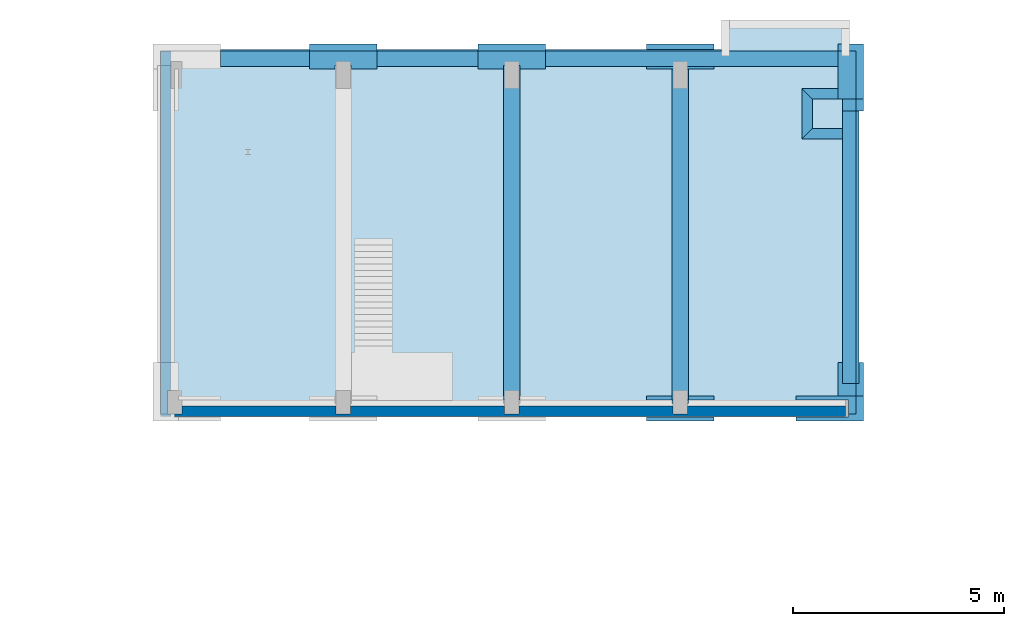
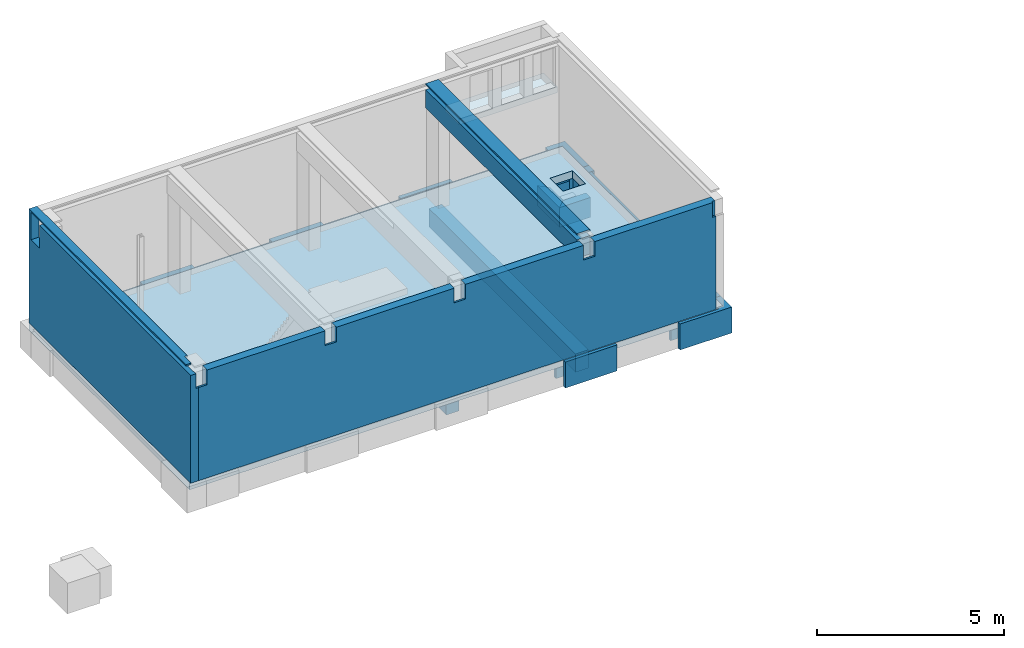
# One storey, part 3 of 5: 16 beams, 3 slabs, 2 walls.
"""IFC2X3 building model written with IfcOpenShell, lengths in millimetres."""

from ifc_helpers import new_model, entity, si_unit, converted_unit, derived_unit, money_unit, direction, frame, origin_with_axes, place, context, subcontext, project, spatial, faceted_brep, material, type_object, element, save


model = new_model("IFC2X3")

# Units and contexts
model_context = context("Model", 3, precision=0.01, world=origin_with_axes(), true_north=direction((0.0, 1.0)))
body_context = subcontext(model_context, "Body", "Model", "MODEL_VIEW")
ifc_project = project(units=[si_unit("LENGTHUNIT", "METRE", prefix="MILLI"), si_unit("AREAUNIT", "SQUARE_METRE"), si_unit("VOLUMEUNIT", "CUBIC_METRE"), converted_unit("PLANEANGLEUNIT", "DEGREE", entity("IfcPlaneAngleMeasure", 0.0174532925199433), si_unit("PLANEANGLEUNIT", "RADIAN"), dimensions=[0, 0, 0, 0, 0, 0, 0]), money_unit("EUR"), converted_unit("TIMEUNIT", "Year", entity("IfcTimeMeasure", 31557600.0), si_unit("TIMEUNIT", "SECOND"), dimensions=[0, 0, 1, 0, 0, 0, 0]), si_unit("MASSUNIT", "GRAM", prefix="KILO"), si_unit("THERMODYNAMICTEMPERATUREUNIT", "DEGREE_CELSIUS"), si_unit("LUMINOUSINTENSITYUNIT", "LUMEN"), si_unit("ENERGYUNIT", "JOULE", prefix="MEGA"), derived_unit("THERMALCONDUCTANCEUNIT", [(si_unit("POWERUNIT", "WATT"), 1), (si_unit("LENGTHUNIT", "METRE"), -1), (si_unit("THERMODYNAMICTEMPERATUREUNIT", "KELVIN"), -1)]), derived_unit("SPECIFICHEATCAPACITYUNIT", [(si_unit("ENERGYUNIT", "JOULE"), 1), (si_unit("MASSUNIT", "GRAM", prefix="KILO"), -1), (si_unit("THERMODYNAMICTEMPERATUREUNIT", "KELVIN"), -1)]), derived_unit("MASSDENSITYUNIT", [(si_unit("MASSUNIT", "GRAM", prefix="KILO"), 1), (si_unit("VOLUMEUNIT", "CUBIC_METRE"), -1)])], contexts=[model_context])

# Site, building, storey
site_placement = place(None, origin_with_axes())
site = spatial("IfcSite", under=ifc_project, at=site_placement, Name="<site naam>", CompositionType="ELEMENT")
building_placement = place(site_placement, origin_with_axes())
building = spatial("IfcBuilding", under=site, at=building_placement, Name="<Naam gebouw>", CompositionType="ELEMENT")
storey_placement = place(building_placement, frame((0.0, 0.0, -3730.0), z_axis=(0.0, 0.0, 1.0), x_axis=(1.0, 0.0, 0.0)))
storey = spatial("IfcBuildingStorey", under=building, at=storey_placement, Name="Kelder", CompositionType="ELEMENT", Elevation=-3730.0)

# Beams
ifc_material_1 = material(Name="beton_gewapend C")
beam_type_1 = type_object("IfcBeamType", Name="beton_gewapend C 400 x 800", PredefinedType="BEAM")
beam_1_placement = place(storey_placement, frame((24000.00000000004, 20085.00000000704, 3730.0), z_axis=(0.0, 0.0, 1.0), x_axis=(-1.0, 0.0, 0.0)))
element("IfcBeam", 1, at=beam_1_placement, inside=storey, type_object=beam_type_1, material=ifc_material_1, Name="28_Balk_beton_gewapend", ObjectType="BEAM", context=body_context, shape_type="Brep", body=[
    faceted_brep([(199.9999999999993, 0.0, -799.9999999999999), (199.9999999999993, 0.0, -199.9999999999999), (-199.9999999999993, 0.0, -200.0), (-199.9999999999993, 0.0, -799.9999999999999), (199.9999999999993, 8110.000000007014, -799.9999999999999), (199.9999999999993, 8110.000000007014, -199.9999999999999), (-199.9999999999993, 8110.000000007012, -200.0), (-199.9999999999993, 8110.000000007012, -799.9999999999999)], [[[0, 1, 2, 3]], [[4, 5, 1, 0]], [[5, 6, 2, 1]], [[3, 2, 6, 7]], [[0, 3, 7, 4]], [[7, 6, 5, 4]]]),
    faceted_brep([(-199.9999999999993, 8110.000000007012, 0.0), (-199.9999999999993, 8110.000000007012, -50.00000000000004), (-199.9999999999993, 0.0, -50.00000000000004), (-199.9999999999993, 0.0, 0.0), (199.9999999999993, 8110.000000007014, 0.0), (199.9999999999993, 8110.000000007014, -50.00000000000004), (199.9999999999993, 0.0, -50.00000000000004), (199.9999999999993, 0.0, 0.0)], [[[0, 1, 2, 3]], [[4, 5, 1, 0]], [[5, 6, 2, 1]], [[3, 2, 6, 7]], [[3, 7, 4, 0]], [[7, 6, 5, 4]]]),
])
beam_type_2 = type_object("IfcBeamType", Name="beton_gewapend C 600 x 850", PredefinedType="BEAM")
beam_2_placement = place(storey_placement, frame((28050.01946356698, 11550.00000000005, 0.0), z_axis=(0.0, 0.0, 1.0), x_axis=(1.0, 0.0, 0.0)))
element("IfcBeam", 2, at=beam_2_placement, inside=storey, type_object=beam_type_2, material=ifc_material_1, Name="28_Balk_beton_gewapend", ObjectType="BEAM", context=body_context, shape_type="Brep", body=[
    faceted_brep([(-199.9999999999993, 900.0000000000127, -850.0000000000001), (-199.9999999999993, 900.0000000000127, -250.0), (124.9805364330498, 900.0000000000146, -250.0), (124.9805364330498, 900.0000000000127, 0.0), (199.9999999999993, 900.0000000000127, 0.0), (199.9999999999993, 900.0000000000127, -850.0000000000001), (-199.9999999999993, 1400.00000000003, -850.0000000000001), (-199.9999999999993, 1400.00000000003, -250.0), (124.9805364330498, 599.9999999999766, -250.0), (-300.0000000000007, 1400.00000000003, -250.0), (-300.0000000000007, 599.9999999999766, -250.0), (124.9805364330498, 599.9999999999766, 0.0), (300.0000000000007, 599.9999999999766, 0.0), (300.0000000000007, 1400.00000000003, 0.0), (199.9999999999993, 1400.00000000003, 0.0), (199.9999999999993, 1400.00000000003, -850.0000000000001), (300.0000000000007, 1400.00000000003, -850.0000000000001), (300.0000000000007, 599.9999999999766, -850.0000000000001), (-300.0000000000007, 599.9999999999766, -850.0000000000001), (-300.0000000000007, 1400.00000000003, -850.0000000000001)], [[[0, 1, 2, 3, 4, 5]], [[6, 7, 1, 0]], [[8, 2, 1, 7, 9, 10]], [[8, 11, 3, 2]], [[4, 3, 11, 12, 13, 14]], [[15, 5, 4, 14]], [[6, 0, 5, 15, 16, 17, 18, 19]], [[19, 9, 7, 6]], [[18, 10, 9, 19]], [[11, 8, 10, 18, 17, 12]], [[17, 16, 13, 12]], [[13, 16, 15, 14]]]),
])
beam_3_placement = place(storey_placement, frame((28050.01946356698, 19200.00000000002, 0.0), z_axis=(0.0, 0.0, 1.0), x_axis=(1.0, 0.0, 0.0)))
element("IfcBeam", 3, at=beam_3_placement, inside=storey, type_object=beam_type_2, material=ifc_material_1, Name="28_Balk_beton_gewapend", ObjectType="BEAM", context=body_context, shape_type="Brep", body=[
    faceted_brep([(-300.0000000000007, 1134.999999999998, 0.0), (124.9805364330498, 1134.999999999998, 0.0), (124.9805364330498, 0.0, 0.0), (300.0000000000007, 0.0, 0.0), (300.0000000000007, 1309.999999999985, 0.0), (-300.0000000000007, 1309.999999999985, 0.0), (124.9805364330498, 1134.999999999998, -250.0), (-300.0000000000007, 1134.999999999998, -250.0), (124.9805364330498, 0.0, -250.0), (-212.6083278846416, 0.0, -250.0), (-300.0000000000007, 0.0, -250.0), (-300.0000000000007, 0.0, -850.0000000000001), (300.0000000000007, 0.0, -850.0000000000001), (300.0000000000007, 1309.999999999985, -850.0000000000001), (-300.0000000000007, 1309.999999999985, -850.0000000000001)], [[[0, 1, 2, 3, 4, 5]], [[6, 1, 0, 7]], [[8, 2, 1, 6]], [[8, 9, 10, 11, 12, 3, 2]], [[3, 12, 13, 4]], [[4, 13, 14, 5]], [[10, 7, 0, 5, 14, 11]], [[10, 9, 8, 6, 7]], [[12, 11, 14, 13]]]),
])
beam_type_3 = type_object("IfcBeamType", Name="beton_gewapend C 1600 x 850", PredefinedType="BEAM")
beam_4_placement = place(storey_placement, frame((24000.00000000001, 19910.00000000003, 0.0), z_axis=(0.0, 0.0, 1.0), x_axis=(1.0, 0.0, 0.0)))
element("IfcBeam", 4, at=beam_4_placement, inside=storey, type_object=beam_type_3, material=ifc_material_1, Name="28_Balk_beton_gewapend", ObjectType="BEAM", context=body_context, shape_type="Brep", body=[
    faceted_brep([(-800.0000000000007, 59.99999999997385, -850.0000000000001), (-800.0000000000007, 59.9999999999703, -250.0), (800.0000000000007, 60.00000000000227, -250.0), (800.0000000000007, 60.00000000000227, -850.0000000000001), (-800.0000000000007, 0.0, -850.0000000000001), (-800.0000000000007, 0.0, -250.0), (800.0000000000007, 0.0, -250.0), (800.0000000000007, 0.0, -850.0000000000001)], [[[0, 1, 2, 3]], [[4, 5, 1, 0]], [[5, 6, 2, 1]], [[3, 2, 6, 7]], [[3, 7, 4, 0]], [[7, 6, 5, 4]]]),
    faceted_brep([(-800.0000000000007, 599.9999999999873, 0.0), (-800.0000000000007, 459.9999999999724, 0.0), (800.0000000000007, 460.0000000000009, 0.0), (800.0000000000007, 599.9999999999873, 0.0), (-800.0000000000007, 599.9999999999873, -850.0000000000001), (-800.0000000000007, 459.999999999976, -850.0000000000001), (800.0000000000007, 460.0000000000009, -850.0000000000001), (800.0000000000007, 599.9999999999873, -850.0000000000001)], [[[0, 1, 2, 3]], [[4, 5, 1, 0]], [[5, 6, 2, 1]], [[3, 2, 6, 7]], [[3, 7, 4, 0]], [[7, 6, 5, 4]]]),
])
beam_5_placement = place(storey_placement, frame((24000.00000000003, 11550.00000000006, 0.0), z_axis=(0.0, 0.0, 1.0), x_axis=(1.0, 0.0, 0.0)))
element("IfcBeam", 5, at=beam_5_placement, inside=storey, type_object=beam_type_3, material=ifc_material_1, Name="28_Balk_beton_gewapend", ObjectType="BEAM", context=body_context, shape_type="Brep", body=[
    faceted_brep([(-800.0000000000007, 599.9999999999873, -850.0000000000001), (-800.0000000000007, 599.9999999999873, -250.0), (-199.9999999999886, 599.9999999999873, -250.0), (-199.9999999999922, 599.9999999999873, -850.0000000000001), (-800.0000000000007, 499.9999999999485, -850.0000000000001), (-800.0000000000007, 499.9999999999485, -250.0), (-199.9999999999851, 499.9999999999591, -250.0), (-199.9999999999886, 499.9999999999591, -850.0000000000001)], [[[0, 1, 2, 3]], [[4, 5, 1, 0]], [[5, 6, 2, 1]], [[3, 2, 6, 7]], [[4, 0, 3, 7]], [[7, 6, 5, 4]]]),
    faceted_brep([(200.0000000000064, 599.9999999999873, -850.0000000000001), (200.0000000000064, 599.9999999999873, -250.0), (800.0000000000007, 599.9999999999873, -250.0), (800.0000000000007, 599.9999999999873, -850.0000000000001), (200.0000000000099, 499.9999999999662, -850.0000000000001), (200.0000000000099, 499.9999999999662, -250.0), (800.0000000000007, 499.9999999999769, -250.0), (800.0000000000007, 499.9999999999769, -850.0000000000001)], [[[0, 1, 2, 3]], [[4, 5, 1, 0]], [[5, 6, 2, 1]], [[3, 2, 6, 7]], [[3, 7, 4, 0]], [[7, 6, 5, 4]]]),
    faceted_brep([(800.0000000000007, 0.0, -850.0000000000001), (800.0000000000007, 99.99999999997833, -850.0000000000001), (800.0000000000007, 99.99999999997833, 0.0), (800.0000000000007, 0.0, 0.0), (-800.0000000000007, 0.0, -850.0000000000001), (-800.0000000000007, 99.9999999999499, -850.0000000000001), (-800.0000000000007, 99.9999999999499, 0.0), (-800.0000000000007, 0.0, 0.0)], [[[0, 1, 2, 3]], [[4, 5, 1, 0]], [[5, 6, 2, 1]], [[3, 2, 6, 7]], [[3, 7, 4, 0]], [[7, 6, 5, 4]]]),
])
beam_6_placement = place(storey_placement, frame((20000.00000000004, 19910.00000000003, 0.0), z_axis=(0.0, 0.0, 1.0), x_axis=(1.0, 0.0, 0.0)))
element("IfcBeam", 6, at=beam_6_placement, inside=storey, type_object=beam_type_3, material=ifc_material_1, Name="28_Balk_beton_gewapend", ObjectType="BEAM", context=body_context, shape_type="Brep", body=[
    faceted_brep([(-800.0000000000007, 599.9999999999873, 0.0), (-800.0000000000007, 424.9999999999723, 0.0), (800.0000000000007, 425.0000000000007, 0.0), (800.0000000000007, 599.9999999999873, 0.0), (-800.0000000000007, 0.0, -250.0), (-800.0000000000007, 424.9999999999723, -250.0), (-800.0000000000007, 599.9999999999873, -850.0000000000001), (-800.0000000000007, 0.0, -850.0000000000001), (800.0000000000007, 425.0000000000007, -250.0), (800.0000000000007, 0.0, -250.0), (800.0000000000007, 0.0, -850.0000000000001), (800.0000000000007, 599.9999999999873, -850.0000000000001), (199.9999999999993, 0.0, -250.0), (-199.9999999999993, 0.0, -250.0), (-199.9999999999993, 89.9999999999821, -250.0), (199.9999999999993, 89.9999999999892, -250.0), (199.9999999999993, 0.0, -850.0000000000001), (199.9999999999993, 89.9999999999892, -850.0000000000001), (-199.9999999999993, 89.9999999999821, -850.0000000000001), (-199.9999999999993, 0.0, -850.0000000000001)], [[[0, 1, 2, 3]], [[4, 5, 1, 0, 6, 7]], [[5, 8, 2, 1]], [[2, 8, 9, 10, 11, 3]], [[0, 3, 11, 6]], [[12, 9, 8, 5, 4, 13, 14, 15]], [[16, 17, 18, 19, 7, 6, 11, 10]], [[19, 13, 4, 7]], [[10, 9, 12, 16]], [[18, 14, 13, 19]], [[17, 15, 14, 18]], [[16, 12, 15, 17]]]),
])
beam_7_placement = place(storey_placement, frame((16000.00000000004, 19910.00000000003, 0.0), z_axis=(0.0, 0.0, 1.0), x_axis=(1.0, 0.0, 0.0)))
element("IfcBeam", 7, at=beam_7_placement, inside=storey, type_object=beam_type_3, material=ifc_material_1, Name="28_Balk_beton_gewapend", ObjectType="BEAM", context=body_context, shape_type="Brep", body=[
    faceted_brep([(-800.0000000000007, 599.9999999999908, 0.0), (-800.0000000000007, 424.9999999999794, 0.0), (799.999999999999, 424.9999999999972, 0.0), (800.0000000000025, 599.9999999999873, 0.0), (-800.0000000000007, 0.0, -250.0), (-800.0000000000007, 424.9999999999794, -250.0), (-800.0000000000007, 599.9999999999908, -850.0000000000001), (-800.0000000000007, 0.0, -850.0000000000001), (799.999999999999, 424.9999999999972, -250.0), (800.0000000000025, 0.0, -250.0), (800.0000000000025, 0.0, -850.0000000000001), (800.0000000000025, 599.9999999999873, -850.0000000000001), (199.9999999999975, 0.0, -250.0), (-200.0000000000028, 0.0, -250.0), (-200.0000000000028, 89.99999999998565, -250.0), (199.999999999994, 89.9999999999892, -250.0), (199.9999999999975, 0.0, -850.0000000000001), (199.999999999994, 89.9999999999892, -850.0000000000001), (-200.0000000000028, 89.99999999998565, -850.0000000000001), (-200.0000000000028, 0.0, -850.0000000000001)], [[[0, 1, 2, 3]], [[4, 5, 1, 0, 6, 7]], [[5, 8, 2, 1]], [[2, 8, 9, 10, 11, 3]], [[0, 3, 11, 6]], [[12, 9, 8, 5, 4, 13, 14, 15]], [[16, 17, 18, 19, 7, 6, 11, 10]], [[19, 13, 4, 7]], [[10, 9, 12, 16]], [[18, 14, 13, 19]], [[17, 15, 14, 18]], [[16, 12, 15, 17]]]),
])
beam_8_placement = place(storey_placement, frame((27550.01946356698, 11550.00000000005, 0.0), z_axis=(0.0, 0.0, 1.0), x_axis=(1.0, 0.0, 0.0)))
element("IfcBeam", 8, at=beam_8_placement, inside=storey, type_object=beam_type_3, material=ifc_material_1, Name="28_Balk_beton_gewapend", ObjectType="BEAM", context=body_context, shape_type="Brep", body=[
    faceted_brep([(-800.0000000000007, 599.9999999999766, -850.0000000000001), (-800.0000000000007, 599.9999999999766, -250.0), (624.9805364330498, 599.9999999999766, -250.0), (624.9805364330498, 599.9999999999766, 0.0), (800.0000000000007, 599.9999999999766, 0.0), (800.0000000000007, 599.9999999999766, -850.0000000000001), (-800.0000000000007, 499.9999999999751, -850.0000000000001), (-800.0000000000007, 499.9999999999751, -250.0), (624.9805364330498, 174.9999999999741, -250.0), (450.0000000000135, 499.9999999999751, -250.0), (450.0000000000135, 174.9999999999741, -250.0), (624.9805364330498, 174.9999999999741, 0.0), (450.0000000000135, 174.9999999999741, 0.0), (450.0000000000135, 99.99999999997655, 0.0), (-800.0000000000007, 99.99999999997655, 0.0), (-800.0000000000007, 0.0, 0.0), (800.0000000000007, 0.0, 0.0), (800.0000000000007, 0.0, -850.0000000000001), (-800.0000000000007, 99.99999999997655, -850.0000000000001), (450.0000000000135, 99.99999999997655, -850.0000000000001), (450.0000000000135, 499.9999999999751, -850.0000000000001), (-800.0000000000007, 0.0, -850.0000000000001)], [[[0, 1, 2, 3, 4, 5]], [[6, 7, 1, 0]], [[8, 2, 1, 7, 9, 10]], [[8, 11, 3, 2]], [[3, 11, 12, 13, 14, 15, 16, 4]], [[4, 16, 17, 5]], [[18, 19, 20, 6, 0, 5, 17, 21]], [[20, 9, 7, 6]], [[12, 10, 9, 20, 19, 13]], [[10, 12, 11, 8]], [[19, 18, 14, 13]], [[21, 15, 14, 18]], [[17, 16, 15, 21]]]),
])
beam_type_4 = type_object("IfcBeamType", Name="beton_gewapend C 400 x 850", PredefinedType="BEAM")
beam_9_placement = place(storey_placement, frame((24000.00000000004, 12000.00000000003, 0.0), z_axis=(0.0, 0.0, 1.0), x_axis=(1.0, 0.0, 0.0)))
element("IfcBeam", 9, at=beam_9_placement, inside=storey, type_object=beam_type_4, material=ifc_material_1, Name="28_Balk_beton_gewapend", ObjectType="BEAM", context=body_context, shape_type="Brep", body=[
    faceted_brep([(-199.9999999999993, 7910.000000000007, -850.0000000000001), (-199.9999999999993, 7910.000000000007, -250.0), (199.9999999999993, 7910.0, -250.0), (199.9999999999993, 7910.0, -850.0000000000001), (-199.9999999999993, 50.00000000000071, -850.0000000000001), (-199.9999999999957, 50.00000000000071, -250.0), (199.9999999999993, 50.00000000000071, -250.0), (199.9999999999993, 50.00000000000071, -850.0000000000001)], [[[0, 1, 2, 3]], [[4, 5, 1, 0]], [[5, 6, 2, 1]], [[3, 2, 6, 7]], [[3, 7, 4, 0]], [[7, 6, 5, 4]]]),
])
beam_10_placement = place(storey_placement, frame((28350.01946356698, 20170.00000000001, 0.0), z_axis=(0.0, 0.0, 1.0), x_axis=(0.0, 1.0, 0.0)))
element("IfcBeam", 10, at=beam_10_placement, inside=storey, type_object=beam_type_4, material=ifc_material_1, Name="28_Balk_beton_gewapend", ObjectType="BEAM", context=body_context, shape_type="Brep", body=[
    faceted_brep([(199.9999999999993, 11550.01946356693, 0.0), (164.9999999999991, 11550.01946356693, 0.0), (164.9999999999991, 9150.01946356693, 0.0), (199.9999999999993, 9150.019463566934, 0.0), (-200.0000000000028, 11550.01946356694, -250.0), (164.9999999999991, 11550.01946356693, -250.0), (200.0000000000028, 11550.01946356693, -850.0000000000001), (-199.9999999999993, 11550.01946356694, -850.0000000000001), (164.9999999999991, 9150.019463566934, -250.0), (-200.0000000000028, 9150.019463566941, -250.0), (-199.9999999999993, 9150.019463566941, -850.0000000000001), (200.0000000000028, 9150.019463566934, -850.0000000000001)], [[[0, 1, 2, 3]], [[4, 5, 1, 0, 6, 7]], [[5, 8, 2, 1]], [[2, 8, 9, 10, 11, 3]], [[6, 0, 3, 11]], [[4, 9, 8, 5]], [[7, 6, 11, 10]], [[10, 9, 4, 7]]]),
    faceted_brep([(199.9999999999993, 7550.019463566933, 0.0), (164.9999999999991, 7550.019463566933, 0.0), (164.9999999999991, 600.0000000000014, 0.0), (199.9999999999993, 600.0000000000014, 0.0), (-200.0000000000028, 7550.01946356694, -250.0), (164.9999999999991, 7550.019463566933, -250.0), (200.0000000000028, 7550.019463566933, -850.0000000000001), (-199.9999999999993, 7550.01946356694, -850.0000000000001), (164.9999999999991, 600.0000000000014, -250.0), (-199.9999999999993, 600.0000000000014, -250.0), (-199.9999999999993, 600.0000000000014, -850.0000000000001), (199.9999999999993, 600.0000000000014, -850.0000000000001)], [[[0, 1, 2, 3]], [[4, 5, 1, 0, 6, 7]], [[5, 8, 2, 1]], [[2, 8, 9, 10, 11, 3]], [[3, 11, 6, 0]], [[4, 9, 8, 5]], [[11, 10, 7, 6]], [[10, 9, 4, 7]]]),
    faceted_brep([(199.9999999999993, 15260.01946356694, 0.0), (164.9999999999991, 15260.01946356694, 0.0), (164.9999999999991, 13150.01946356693, 0.0), (199.9999999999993, 13150.01946356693, 0.0), (-199.9999999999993, 15260.01946356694, -250.0), (164.9999999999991, 15260.01946356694, -250.0), (200.0000000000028, 15260.01946356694, -850.0000000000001), (-199.9999999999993, 15260.01946356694, -850.0000000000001), (164.9999999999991, 13150.01946356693, -250.0), (-199.9999999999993, 13150.01946356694, -250.0), (-200.0000000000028, 13150.01946356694, -850.0000000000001), (200.0000000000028, 13150.01946356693, -850.0000000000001)], [[[0, 1, 2, 3]], [[4, 5, 1, 0, 6, 7]], [[5, 8, 2, 1]], [[2, 8, 9, 10, 11, 3]], [[6, 0, 3, 11]], [[4, 9, 8, 5]], [[7, 6, 11, 10]], [[10, 9, 4, 7]]]),
])
beam_11_placement = place(storey_placement, frame((20000.00000000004, 12000.00000000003, 0.0), z_axis=(0.0, 0.0, 1.0), x_axis=(1.0, 0.0, 0.0)))
element("IfcBeam", 11, at=beam_11_placement, inside=storey, type_object=beam_type_4, material=ifc_material_1, Name="28_Balk_beton_gewapend", ObjectType="BEAM", context=body_context, shape_type="Brep", body=[
    faceted_brep([(-199.9999999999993, 7999.999999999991, -850.0000000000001), (-199.9999999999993, 7999.999999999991, -250.0), (199.9999999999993, 7999.999999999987, -250.0), (199.9999999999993, 7999.999999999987, -850.0000000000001), (-199.9999999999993, 50.00000000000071, -850.0000000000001), (-199.9999999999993, 50.00000000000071, -250.0), (199.9999999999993, 50.00000000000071, -250.0), (199.9999999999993, 50.00000000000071, -850.0000000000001)], [[[0, 1, 2, 3]], [[4, 5, 1, 0]], [[5, 6, 2, 1]], [[3, 2, 6, 7]], [[7, 4, 0, 3]], [[7, 6, 5, 4]]]),
])
beam_12_placement = place(storey_placement, frame((28050.01946356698, 12450.00000000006, 0.0), z_axis=(0.0, 0.0, 1.0), x_axis=(1.0, 0.0, 0.0)))
element("IfcBeam", 12, at=beam_12_placement, inside=storey, type_object=beam_type_4, material=ifc_material_1, Name="28_Balk_beton_gewapend", ObjectType="BEAM", context=body_context, shape_type="Brep", body=[
    faceted_brep([(-199.9999999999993, 6459.99999999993, -850.0000000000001), (-199.9999999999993, 6459.99999999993, -250.0), (124.9805364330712, 6459.999999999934, -250.0), (124.9805364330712, 6459.999999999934, 0.0), (199.9999999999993, 6459.999999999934, 0.0), (199.9999999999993, 6459.999999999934, -850.0000000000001), (-199.9999999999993, 0.0, -850.0000000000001), (-199.9999999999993, 0.0, -250.0), (124.9805364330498, 0.0, -250.0), (124.9805364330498, 0.0, 0.0), (199.9999999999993, 0.0, 0.0), (199.9999999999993, 0.0, -850.0000000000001)], [[[0, 1, 2, 3, 4, 5]], [[6, 7, 1, 0]], [[8, 2, 1, 7]], [[8, 9, 3, 2]], [[4, 3, 9, 10]], [[4, 10, 11, 5]], [[5, 11, 6, 0]], [[9, 8, 7, 6, 11, 10]]]),
])
beam_type_5 = type_object("IfcBeamType", Name="beton_gewapend C 500 x 850", PredefinedType="BEAM")
beam_13_placement = place(storey_placement, frame((28350.01946356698, 18909.99999999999, 0.0), z_axis=(0.0, 0.0, 1.0), x_axis=(1.0, 0.0, 0.0)))
element("IfcBeam", 13, at=beam_13_placement, inside=storey, type_object=beam_type_5, material=ifc_material_1, Name="28_Balk_beton_gewapend", ObjectType="BEAM", context=body_context, shape_type="Brep", body=[
    faceted_brep([(-500.0, 290.000000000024, -850.0000000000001), (-500.0, 290.000000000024, -250.0), (-175.0194635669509, 290.000000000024, -250.0), (-175.0194635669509, 290.000000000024, 0.0), (0.0, 290.000000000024, 0.0), (0.0, 290.000000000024, -850.0000000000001), (-500.0, 0.0, -850.0000000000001), (-500.0, 0.0, -250.0), (-175.0194635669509, 0.0, -250.0), (-175.0194635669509, 0.0, 0.0), (0.0, 0.0, 0.0), (0.0, 0.0, -850.0000000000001)], [[[0, 1, 2, 3, 4, 5]], [[6, 7, 1, 0]], [[8, 2, 1, 7]], [[8, 9, 3, 2]], [[4, 3, 9, 10]], [[10, 11, 5, 4]], [[11, 6, 0, 5]], [[9, 8, 7, 6, 11, 10]]]),
])
beam_type_6 = type_object("IfcBeamType", Name="beton_gewapend C 250 x 650", PredefinedType="BEAM")
beam_14_placement = place(storey_placement, frame((27750.01946356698, 19200.00000000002, -950.0000000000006), z_axis=(0.0, 0.0, 1.0), x_axis=(0.0, 1.0, 0.0)))
element("IfcBeam", 14, at=beam_14_placement, inside=storey, type_object=beam_type_6, material=ifc_material_1, Name="28_Balk_beton_gewapend", ObjectType="BEAM", context=body_context, shape_type="Brep", body=[
    faceted_brep([(0.0, 0.0, 0.0), (0.0, 612.608327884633, 0.0), (250.0, 862.6083278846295, 0.0), (250.0, 0.0, 0.0), (0.0, 0.0, 650.0000000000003), (0.0, 612.608327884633, 650.0000000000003), (250.0, 862.6083278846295, 650.0000000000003), (250.0, 0.0, 650.0000000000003)], [[[0, 1, 2, 3]], [[4, 5, 1, 0]], [[2, 1, 5, 6]], [[3, 2, 6, 7]], [[4, 0, 3, 7]], [[7, 6, 5, 4]]]),
])
beam_15_placement = place(storey_placement, frame((27137.41113568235, 19200.00000000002, -950.0000000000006), z_axis=(0.0, 0.0, 1.0), x_axis=(-1.0, 0.0, 0.0)))
element("IfcBeam", 15, at=beam_15_placement, inside=storey, type_object=beam_type_6, material=ifc_material_1, Name="28_Balk_beton_gewapend", ObjectType="BEAM", context=body_context, shape_type="Brep", body=[
    faceted_brep([(0.0, 0.0, 0.0), (0.0, 700.0000000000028, 0.0), (250.0, 950.0000000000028, 0.0), (250.0, -250.0, 0.0), (0.0, 0.0, 650.0000000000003), (0.0, 700.0000000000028, 650.0000000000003), (250.0, 950.0000000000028, 650.0000000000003), (250.0, -250.0, 650.0000000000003)], [[[0, 1, 2, 3]], [[4, 5, 1, 0]], [[2, 1, 5, 6]], [[3, 2, 6, 7]], [[4, 0, 3, 7]], [[7, 6, 5, 4]]]),
])
beam_16_placement = place(storey_placement, frame((27850.01946356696, 18500.00000000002, -950.0000000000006), z_axis=(0.0, 0.0, 1.0), x_axis=(0.0, 1.0, 0.0)))
element("IfcBeam", 16, at=beam_16_placement, inside=storey, type_object=beam_type_6, material=ifc_material_1, Name="28_Balk_beton_gewapend", ObjectType="BEAM", context=body_context, shape_type="Brep", body=[
    faceted_brep([(0.0, 0.0, 650.0000000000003), (0.0, 712.6083278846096, 650.0000000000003), (-250.0, 962.6083278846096, 650.0000000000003), (-250.0, 0.0, 650.0000000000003), (0.0, 0.0, 0.0), (0.0, 712.6083278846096, 0.0), (-250.0, 962.6083278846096, 0.0), (-250.0, 0.0, 0.0)], [[[0, 1, 2, 3]], [[4, 5, 1, 0]], [[2, 1, 5, 6]], [[3, 2, 6, 7]], [[4, 0, 3, 7]], [[7, 6, 5, 4]]]),
])

# Slabs
ifc_material_2 = material(Name="beton_gewapend_vloer C")
slab_type_1 = type_object("IfcSlabType", Name="beton_gewapend_vloer C  250", PredefinedType="NOTDEFINED")
slab_1_placement = place(storey_placement, frame((11665.00000000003, 11725.00000000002, 0.0), z_axis=(0.0, 0.0, 1.0), x_axis=(1.0, 0.0, 0.0)))
element("IfcSlab", 17, at=slab_1_placement, inside=storey, type_object=slab_type_1, material=ifc_material_2, Name="23_Vloer_beton_gewapend_vloer", PredefinedType="NOTDEFINED", context=body_context, shape_type="Brep", body=[
    faceted_brep([(0.0, 0.0, 0.0), (0.0, 0.0, -250.0), (16510.0, 0.0, -250.0), (16510.0, 0.0, 0.0), (0.0, 8609.99999999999, 0.0), (0.0, 8609.99999999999, -250.0), (16510.0, 8609.99999999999, -250.0), (16172.41113568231, 6774.99999999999, -250.0), (16172.41113568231, 7474.999999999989, -250.0), (15472.41113568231, 7474.999999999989, -250.0), (15472.41113568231, 6774.99999999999, -250.0), (16510.0, 8609.99999999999, 0.0), (15472.41113568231, 7474.999999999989, 0.0), (16172.41113568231, 7474.999999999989, 0.0), (16172.41113568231, 6774.99999999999, 0.0), (15472.41113568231, 6774.99999999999, 0.0)], [[[0, 1, 2, 3]], [[4, 5, 1, 0]], [[2, 1, 5, 6], [7, 8, 9, 10]], [[3, 2, 6, 11]], [[4, 0, 3, 11], [12, 13, 14, 15]], [[11, 6, 5, 4]], [[13, 8, 7, 14]], [[12, 9, 8, 13]], [[15, 10, 9, 12]], [[14, 7, 10, 15]]]),
])
ifc_material_3 = material(Name="beton")
slab_type_2 = type_object("IfcSlabType", Name="beton 250", PredefinedType="NOTDEFINED")
slab_2_placement = place(storey_placement, frame((27137.41113568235, 18500.00000000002, -699.9999999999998), z_axis=(0.0, 0.0, 1.0), x_axis=(1.0, 0.0, 0.0)))
element("IfcSlab", 18, at=slab_2_placement, inside=storey, type_object=slab_type_2, material=ifc_material_3, Name="23_Vloer_beton", PredefinedType="NOTDEFINED", context=body_context, shape_type="Brep", body=[
    faceted_brep([(0.0, 0.0, 0.0), (0.0, 0.0, -250.0), (712.6083278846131, 0.0, -250.0), (712.6083278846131, 0.0, 0.0), (0.0, 699.9999999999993, 0.0), (0.0, 699.9999999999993, -250.0), (712.6083278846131, 699.9999999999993, -250.0), (712.6083278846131, 699.9999999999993, 0.0)], [[[0, 1, 2, 3]], [[4, 5, 1, 0]], [[2, 1, 5, 6]], [[3, 2, 6, 7]], [[4, 0, 3, 7]], [[7, 6, 5, 4]]]),
])
slab_type_3 = type_object("IfcSlabType", Name="beton_gewapend_vloer C  200", PredefinedType="NOTDEFINED")
slab_3_placement = place(storey_placement, frame((24974.99999441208, 21074.99987870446, 2000.0), z_axis=(0.0, 0.0, 1.0), x_axis=(1.0, 0.0, 0.0)))
element("IfcSlab", 19, at=slab_3_placement, inside=storey, type_object=slab_type_3, material=ifc_material_2, Name="23_Vloer_beton_gewapend_vloer", PredefinedType="NOTDEFINED", context=body_context, shape_type="Brep", body=[
    faceted_brep([(0.0, 0.0, 0.0), (0.0, 0.0, -199.9999999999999), (0.0, -739.9998787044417, -199.9999999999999), (0.0, -739.9998787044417, 0.0), (3049.999999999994, 0.0, 0.0), (3049.999999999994, 0.0, -199.9999999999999), (3049.999999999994, -739.9998787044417, -199.9999999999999), (3049.999999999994, -739.9998787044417, 0.0)], [[[0, 1, 2, 3]], [[4, 5, 1, 0]], [[2, 1, 5, 6]], [[3, 2, 6, 7]], [[4, 0, 3, 7]], [[7, 6, 5, 4]]]),
])

# Walls
ifc_material_4 = material(Name="betonblok C")
wall_type = type_object("IfcWallType", Name="betonblok C 250", PredefinedType="NOTDEFINED")
wall_1_placement = place(storey_placement, frame((11915.00000000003, 20085.00000000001, 0.0), z_axis=(0.0, 0.0, 1.0), x_axis=(0.0, -1.0, 0.0)))
element("IfcWall", 20, at=wall_1_placement, inside=storey, type_object=wall_type, material=ifc_material_4, Name="22_Binnenwand_betonblok", context=body_context, shape_type="Brep", body=[
    faceted_brep([(8420.0, -89.99999999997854, 3530.0), (7809.99999999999, -89.99999999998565, 3530.0), (7809.99999999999, 0.0, 3530.0), (309.9999999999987, 0.0, 3530.0), (309.9999999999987, -250.0, 3530.0), (8420.0, -250.0000000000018, 3530.0), (8420.0, -89.99999999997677, 3050.0), (8359.99999999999, -89.99999999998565, 3050.0), (8359.99999999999, -89.99999999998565, 0.0), (7809.99999999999, -89.99999999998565, 0.0), (7809.99999999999, 0.0, 0.0), (-250.0, 0.0, 3730.0), (7809.99999999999, 0.0, 3730.0), (7809.99999999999, 0.0, 3680.0), (-140.0065623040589, 0.0, 3680.0), (-140.0000000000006, 0.0, 2780.0), (309.9999999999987, 0.0, 2780.0), (-250.0, 0.0, 0.0), (309.9999999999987, -250.0, 2780.0), (-140.0000000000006, -250.0, 2780.0), (-140.0065623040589, -250.0, 3680.0), (8170.000000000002, -250.0000000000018, 3680.0), (8170.000000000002, -250.0000000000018, 3730.0), (-250.0, -250.0, 3730.0), (-250.0, -250.0, 0.0), (8420.0, -250.0000000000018, 0.0), (8420.0, 0.0, 0.0), (8420.0, 0.0, 3050.0), (8359.99999999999, 0.0, 3050.0), (8359.99999999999, 0.0, 0.0), (8170.000000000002, -89.99999999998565, 3730.0), (7809.99999999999, -89.99999999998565, 3730.0), (7809.99999999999, -89.99999999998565, 3680.0), (8170.000000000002, -89.99999999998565, 3680.0)], [[[0, 1, 2, 3, 4, 5]], [[6, 7, 8, 9, 1, 0]], [[9, 10, 2, 1]], [[11, 12, 13, 14, 15, 16, 3, 2, 10, 17]], [[16, 18, 4, 3]], [[4, 18, 19, 20, 21, 22, 23, 24, 25, 5]], [[26, 27, 6, 0, 5, 25]], [[27, 28, 7, 6]], [[8, 7, 28, 29]], [[9, 8, 29, 26, 25, 24, 17, 10]], [[22, 30, 31, 12, 11, 23]], [[32, 13, 12, 31]], [[13, 32, 33, 21, 20, 14]], [[20, 19, 15, 14]], [[19, 18, 16, 15]], [[23, 11, 17, 24]], [[21, 33, 30, 22]], [[26, 29, 28, 27]], [[32, 31, 30, 33]]]),
])
wall_2_placement = place(storey_placement, frame((27925.00000000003, 11915.00000000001, 0.0), z_axis=(0.0, 0.0, 1.0), x_axis=(-1.0, 0.0, 0.0)))
element("IfcWall", 21, at=wall_2_placement, inside=storey, type_object=wall_type, material=ifc_material_4, Name="22_Binnenwand_betonblok", context=body_context, shape_type="Brep", body=[
    faceted_brep([(0.0, 0.0, 0.0), (3749.999999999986, 0.0, 0.0), (3749.999999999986, 0.0, 3530.0), (0.0, 0.0, 3530.0), (4099.999999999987, 189.9999999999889, 0.0), (3749.999999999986, 189.9999999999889, 0.0), (0.0, 250.0, 0.0), (16010.0, 249.9999999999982, 0.0), (16010.0, 189.9999999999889, 0.0), (15749.99999999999, 189.9999999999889, 0.0), (15749.99999999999, 0.0, 0.0), (12099.99999999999, 0.0, 0.0), (12099.99999999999, 189.9999999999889, 0.0), (11749.99999999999, 189.9999999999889, 0.0), (11749.99999999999, 0.0, 0.0), (8099.999999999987, 0.0, 0.0), (8099.999999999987, 189.9999999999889, 0.0), (7749.999999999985, 189.9999999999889, 0.0), (7749.999999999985, 0.0, 0.0), (4099.999999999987, 0.0, 0.0), (3750.000000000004, 250.0, 3530.0), (3749.999999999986, 189.9999999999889, 3050.0), (3750.000000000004, 249.9999999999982, 3050.0), (99.98435392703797, 250.0, 3530.0), (99.98053634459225, 190.0055638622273, 3530.0), (0.0, 190.002385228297, 3530.0), (0.0, 190.002385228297, 3050.0), (0.0, 250.0, 3050.0), (4099.999999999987, 189.9999999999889, 3050.0), (99.97866062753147, 250.0, 3050.0), (4100.000000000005, 249.9999999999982, 3050.0), (4100.000000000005, 250.0, 3530.0), (7749.999999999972, 250.0, 3530.0), (7749.999999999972, 250.0, 3050.0), (8099.999999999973, 250.0, 3050.0), (8099.999999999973, 250.0, 3530.0), (11749.99999999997, 250.0, 3530.0), (11749.99999999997, 250.0, 3050.0), (12099.99999999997, 250.0, 3050.0), (12099.99999999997, 250.0, 3530.0), (15749.99999999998, 250.0, 3530.0), (15749.99999999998, 249.9999999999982, 3050.0), (16010.0, 250.0, 3050.0), (16010.0, 189.9999999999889, 3050.0), (15749.99999999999, 189.9999999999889, 3050.0), (15749.99999999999, 0.0, 3530.0), (12099.99999999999, 0.0, 3530.0), (12099.99999999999, 189.9999999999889, 3050.0), (11749.99999999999, 189.9999999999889, 3050.0), (11749.99999999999, 0.0, 3530.0), (8099.999999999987, 0.0, 3530.0), (8099.999999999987, 189.9999999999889, 3050.0), (7749.999999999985, 189.9999999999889, 3050.0), (7749.999999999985, 0.0, 3530.0), (4099.999999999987, 0.0, 3530.0), (99.98053634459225, 190.0055638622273, 3050.0)], [[[0, 1, 2, 3]], [[4, 5, 1, 0, 6, 7, 8, 9, 10, 11, 12, 13, 14, 15, 16, 17, 18, 19]], [[20, 2, 1, 5, 21, 22]], [[3, 2, 20, 23, 24, 25]], [[3, 25, 26, 27, 6, 0]], [[4, 28, 21, 5]], [[6, 27, 29, 23, 20, 22, 30, 31, 32, 33, 34, 35, 36, 37, 38, 39, 40, 41, 42, 7]], [[42, 43, 8, 7]], [[8, 43, 44, 9]], [[40, 45, 10, 9, 44, 41]], [[45, 46, 11, 10]], [[38, 47, 12, 11, 46, 39]], [[12, 47, 48, 13]], [[36, 49, 14, 13, 48, 37]], [[49, 50, 15, 14]], [[34, 51, 16, 15, 50, 35]], [[16, 51, 52, 17]], [[32, 53, 18, 17, 52, 33]], [[53, 54, 19, 18]], [[30, 28, 4, 19, 54, 31]], [[22, 21, 28, 30]], [[29, 55, 24, 23]], [[24, 55, 26, 25]], [[55, 29, 27, 26]], [[31, 54, 53, 32]], [[33, 52, 51, 34]], [[35, 50, 49, 36]], [[37, 48, 47, 38]], [[39, 46, 45, 40]], [[41, 44, 43, 42]]]),
])

save(model, "model.ifc")
